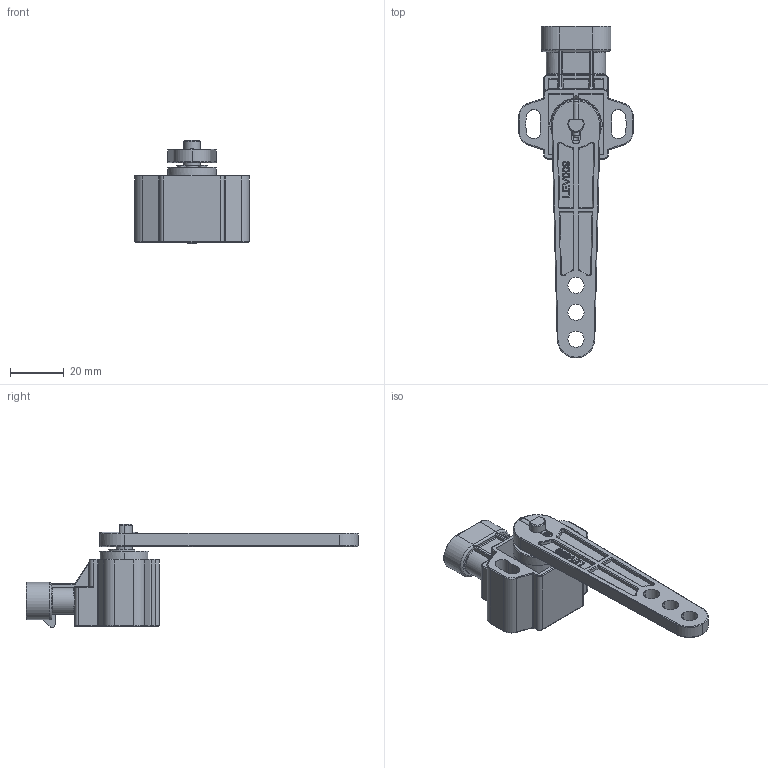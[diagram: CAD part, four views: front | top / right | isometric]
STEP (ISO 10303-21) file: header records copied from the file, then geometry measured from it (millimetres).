
FILE_DESCRIPTION (( 'STEP AP203' ), '1' );
FILE_NAME ('GR3PA S3E2MS xxx xxxx D0.STEP', '2024-12-19T14:40:37', ( '' ), ( '' ), 'SwSTEP 2.0', 'SolidWorks 2024', '' );
FILE_SCHEMA (( 'CONFIG_CONTROL_DESIGN' ));
Length unit declared in the file: millimetre
Products named in the file (1): GR3PA S3E2MS xxx xxxx D0
Bounding box: 42.5 x 123.5 x 38.47 mm (x, y, z)
Volume: 28239.9 mm3; surface area: 16874.4 mm2
Topology: 9 solids, 9 shells, 758 faces, 1846 edges, 1120 vertices
Faces by surface type: cylinder 277, plane 258, torus 84, bspline 78, cone 34, sphere 27
Entity records: 26889 total; most frequent: CARTESIAN_POINT 9430, ORIENTED_EDGE 3648, DIRECTION 3606, EDGE_CURVE 1824, AXIS2_PLACEMENT_3D 1349, VERTEX_POINT 1120, LINE 908, VECTOR 908
